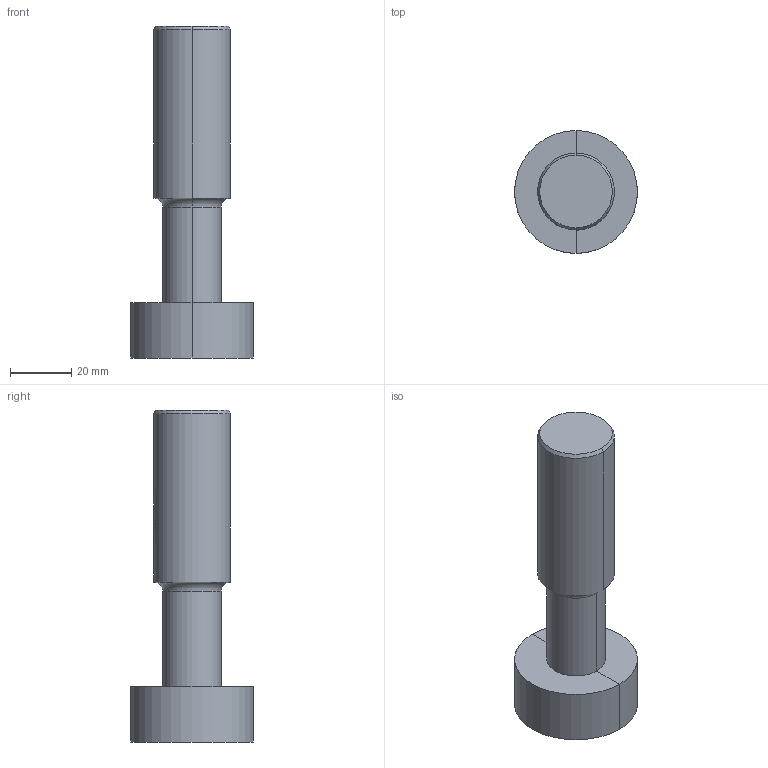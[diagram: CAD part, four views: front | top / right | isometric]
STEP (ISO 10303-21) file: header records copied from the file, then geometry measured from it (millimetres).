
FILE_DESCRIPTION(('no description'),'unknown implementation level');
FILE_NAME('solidJGcUCWNbYAIJYAnd5N8M_iJ61iI_1.STP',' ',('CIMSOURCE GmbH'),('CADClick - KiM GmbH - www.kimweb.de'),'unknown preprocess','ACIS','unknown authorization');
FILE_SCHEMA(('automotive_design'));
Length unit declared in the file: millimetre
Products named in the file (2): NOCUT; CUT
Bounding box: 40 x 40 x 108 mm (x, y, z)
Volume: 59836.5 mm3; surface area: 17544.3 mm2
Topology: 2 solids, 2 shells, 39 faces, 89 edges, 54 vertices
Faces by surface type: cylinder 18, cone 10, plane 9, torus 2
Entity records: 2538 total; most frequent: CARTESIAN_POINT 568, DIRECTION 201, STYLED_ITEM 184, PRESENTATION_STYLE_ASSIGNMENT 184, COLOUR_RGB 184, ORIENTED_EDGE 178, EDGE_CURVE 89, CURVE_STYLE 89
